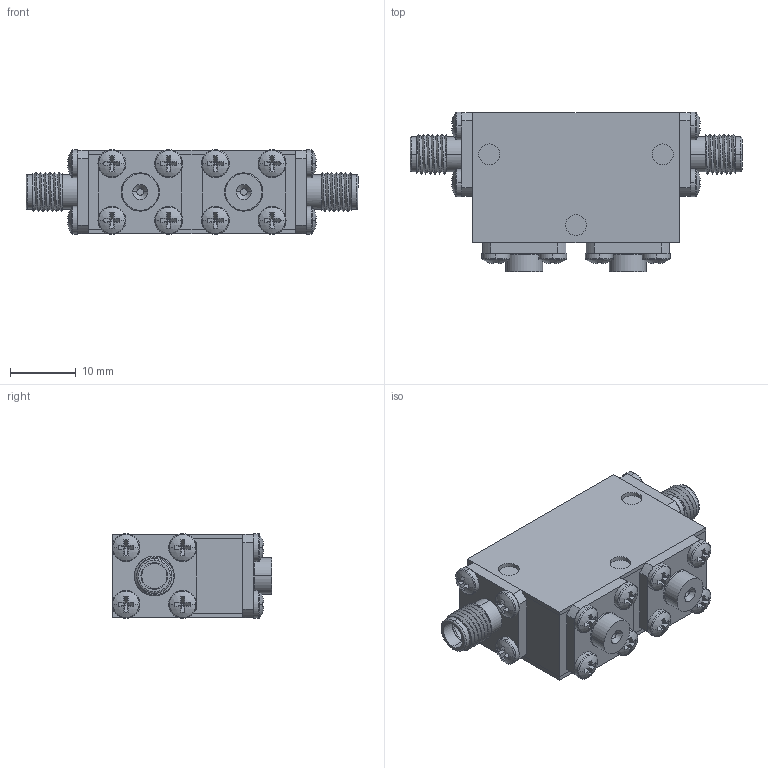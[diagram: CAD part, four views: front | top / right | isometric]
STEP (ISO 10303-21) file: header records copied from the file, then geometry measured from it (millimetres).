
FILE_DESCRIPTION (( 'STEP AP214' ), '1' );
FILE_NAME ('Package 15 Iso FF.step', '2021-12-01T20:58:21', ( '' ), ( '' ), 'SwSTEP 2.0', 'SolidWorks 2016', '' );
FILE_SCHEMA (( 'AUTOMOTIVE_DESIGN' ));
Length unit declared in the file: inch
Products named in the file (6): Delta SMA-Female 0.500 flange Threaded; Package Size 15; pan cross head_ai_CR-PHMS 0.086-56x0.125x0.125-N; 030013-1A Same Base thickness as connectors; Package 15 Iso FF; Package 15
Assembly tree (22 placements, depth 2):
  Package 15 Iso FF
    Package 15
    Delta SMA-Female 0.500 flange Threaded  x2
    pan cross head_ai_CR-PHMS 0.086-56x0.125x0.125-N  x16
    030013-1A Same Base thickness as connectors  x2
    Package Size 15
Bounding box: 50.55 x 24.35 x 12.88 mm (x, y, z)
Volume: 9468.6 mm3; surface area: 9050.6 mm2
Topology: 22 solids, 22 shells, 538 faces, 1222 edges, 754 vertices
Faces by surface type: plane 296, cylinder 156, torus 40, sphere 32, cone 8, bspline 6
Entity records: 4805 total; most frequent: CARTESIAN_POINT 1374, DIRECTION 727, ORIENTED_EDGE 594, EDGE_CURVE 297, AXIS2_PLACEMENT_3D 294, VERTEX_POINT 191, EDGE_LOOP 160, CIRCLE 150
